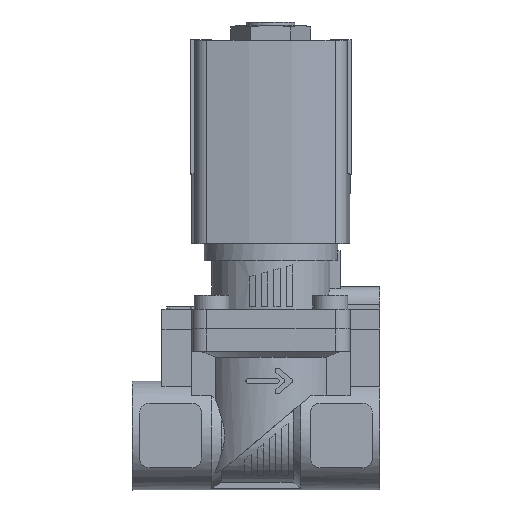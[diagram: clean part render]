
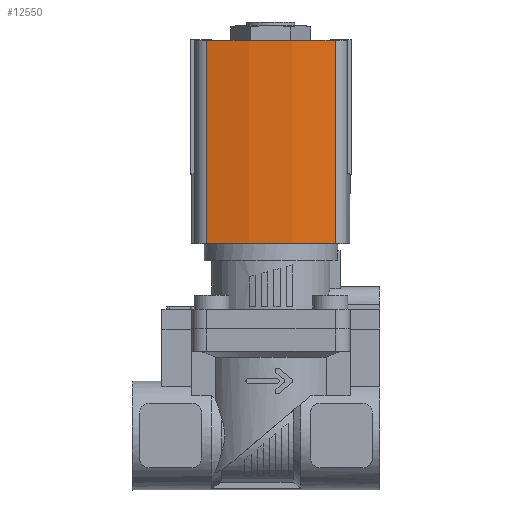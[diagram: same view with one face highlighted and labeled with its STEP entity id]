
A CAD part, top view. The second image highlights one B-rep face of the part: STEP entity #12550.
In plain terms, the highlighted cylindrical face has radius 60 mm (diameter 120 mm), a partial arc.
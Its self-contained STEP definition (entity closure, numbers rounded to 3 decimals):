
#1565=LINE('',#19207,#2627);
#1566=LINE('',#19211,#2628);
#2627=VECTOR('',#15913,1000.);
#2628=VECTOR('',#15918,1000.);
#4950=ORIENTED_EDGE('',*,*,#6946,.T.);
#4951=ORIENTED_EDGE('',*,*,#6947,.F.);
#4952=ORIENTED_EDGE('',*,*,#6232,.F.);
#4953=ORIENTED_EDGE('',*,*,#6945,.T.);
#6232=EDGE_CURVE('',#7480,#7481,#8204,.T.);
#6945=EDGE_CURVE('',#7480,#7986,#1565,.T.);
#6946=EDGE_CURVE('',#7986,#7987,#8298,.T.);
#6947=EDGE_CURVE('',#7481,#7987,#1566,.T.);
#7480=VERTEX_POINT('',#17861);
#7481=VERTEX_POINT('',#17863);
#7986=VERTEX_POINT('',#19206);
#7987=VERTEX_POINT('',#19210);
#8204=CIRCLE('',#13186,60.);
#8298=CIRCLE('',#13407,60.);
#8728=EDGE_LOOP('',(#4950,#4951,#4952,#4953));
#9313=FACE_BOUND('',#8728,.T.);
#9563=CYLINDRICAL_SURFACE('',#13406,60.);
#12550=ADVANCED_FACE('',(#9313),#9563,.T.);
#13186=AXIS2_PLACEMENT_3D('',#17862,#14854,#14855);
#13406=AXIS2_PLACEMENT_3D('',#19208,#15914,#15915);
#13407=AXIS2_PLACEMENT_3D('',#19209,#15916,#15917);
#14854=DIRECTION('',(0.,1.,0.));
#14855=DIRECTION('',(1.,0.,0.));
#15913=DIRECTION('',(0.,-1.,0.));
#15914=DIRECTION('',(0.,-1.,0.));
#15915=DIRECTION('',(0.,0.,-1.));
#15916=DIRECTION('',(0.,1.,0.));
#15917=DIRECTION('',(1.,0.,0.));
#15918=DIRECTION('',(0.,-1.,0.));
#17861=CARTESIAN_POINT('',(19.078,15.,12.986));
#17862=CARTESIAN_POINT('',(-39.5,15.,0.));
#17863=CARTESIAN_POINT('',(19.078,15.,-12.986));
#19206=CARTESIAN_POINT('',(19.078,-26.,12.986));
#19207=CARTESIAN_POINT('',(19.078,15.,12.986));
#19208=CARTESIAN_POINT('',(-39.5,15.,0.));
#19209=CARTESIAN_POINT('',(-39.5,-26.,0.));
#19210=CARTESIAN_POINT('',(19.078,-26.,-12.986));
#19211=CARTESIAN_POINT('',(19.078,15.,-12.986));
